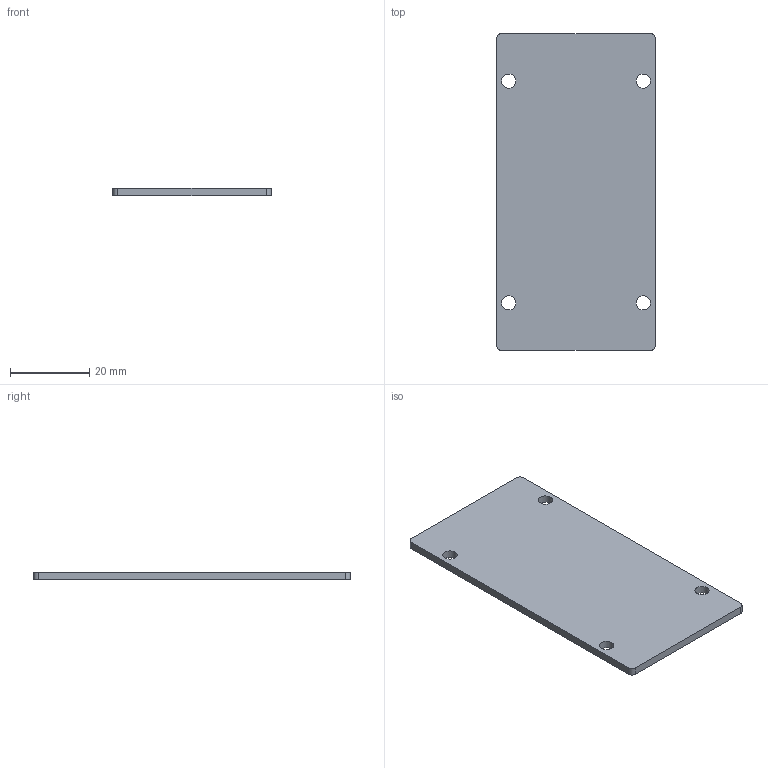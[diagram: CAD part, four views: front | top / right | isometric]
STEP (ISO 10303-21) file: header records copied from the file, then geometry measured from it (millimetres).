
FILE_DESCRIPTION(('Open CASCADE Model'),'2;1');
FILE_NAME('Open CASCADE Shape Model','2026-09-20T03:57:46',('Author'),( 'Open CASCADE'),'Open CASCADE STEP processor 7.9','Open CASCADE 7.9' ,'Unknown');
FILE_SCHEMA(('AUTOMOTIVE_DESIGN { 1 0 10303 214 1 1 1 1 }'));
Length unit declared in the file: millimetre
Products named in the file (1): Open CASCADE STEP translator 7.9 2
Bounding box: 40 x 80 x 2 mm (x, y, z)
Volume: 6316.1 mm3; surface area: 6882.5 mm2
Topology: 1 solids, 1 shells, 14 faces, 36 edges, 24 vertices
Faces by surface type: cylinder 8, plane 6
Full cylindrical faces by diameter (mm): 3.6 x4
Entity records: 954 total; most frequent: CARTESIAN_POINT 195, DIRECTION 146, LINE 76, VECTOR 76, ORIENTED_EDGE 72, PCURVE 72, DEFINITIONAL_REPRESENTATION 72, EDGE_CURVE 36
